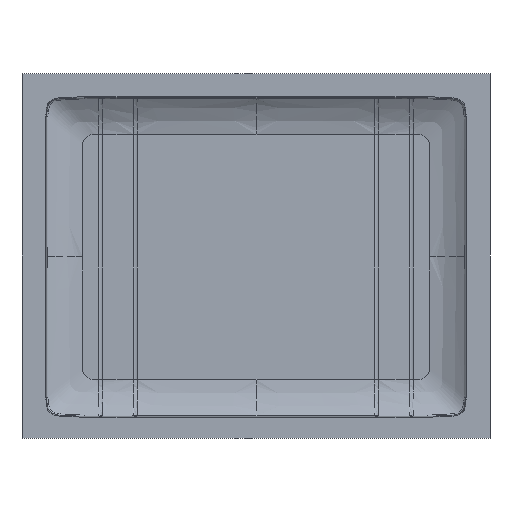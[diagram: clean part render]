
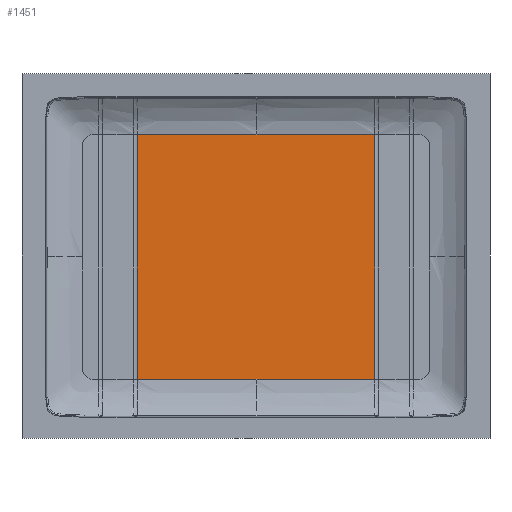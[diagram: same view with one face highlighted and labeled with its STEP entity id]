
A CAD part, front view. The second image highlights one B-rep face of the part: STEP entity #1451.
In plain terms, the highlighted planar face has unit normal (0, -1, 0).
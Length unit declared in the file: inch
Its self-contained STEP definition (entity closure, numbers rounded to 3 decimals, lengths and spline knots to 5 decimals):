
#207 = VERTEX_POINT ( 'NONE', #422 ) ;
#295 = CARTESIAN_POINT ( 'NONE',  ( -2.12392, 2.03, -6.29637 ) ) ;
#307 = CARTESIAN_POINT ( 'NONE',  ( 3.18257, 2.03, -6.29637 ) ) ;
#412 = VECTOR ( 'NONE', #9921, 39.37008 ) ;
#422 = CARTESIAN_POINT ( 'NONE',  ( 6.10459, 2.03, 6.29637 ) ) ;
#629 = CARTESIAN_POINT ( 'NONE',  ( -6.10459, 2.03, -6.29637 ) ) ;
#774 = CARTESIAN_POINT ( 'NONE',  ( 5.73254, 2.03, 6.29637 ) ) ;
#1066 = CARTESIAN_POINT ( 'NONE',  ( 0., 2.03, 6.29637 ) ) ;
#1192 = CARTESIAN_POINT ( 'NONE',  ( -0.35414, 2.03, -6.29637 ) ) ;
#1207 = CARTESIAN_POINT ( 'NONE',  ( 1.06254, 2.03, -6.29637 ) ) ;
#1393 = VERTEX_POINT ( 'NONE', #1066 ) ;
#1451 = ADVANCED_FACE ( 'NONE', ( #4064 ), #2432, .F. ) ;
#1650 = CARTESIAN_POINT ( 'NONE',  ( -5.73254, 2.03, 6.29637 ) ) ;
#1657 = CARTESIAN_POINT ( 'NONE',  ( 4.76146, 2.03, 6.29637 ) ) ;
#1798 = VECTOR ( 'NONE', #9784, 39.37008 ) ;
#2010 = CARTESIAN_POINT ( 'NONE',  ( -6.00534, 2.03, -6.29637 ) ) ;
#2050 = CARTESIAN_POINT ( 'NONE',  ( 0., 2.03, -6.29637 ) ) ;
#2372 = B_SPLINE_CURVE_WITH_KNOTS ( 'NONE', 3,
 ( #5291, #3677, #9406, #4504, #10239, #5321, #307, #6133, #1207, #6946, #2050 ),
 .UNSPECIFIED., .F., .F.,
 ( 4, 1, 1, 1, 1, 1, 1, 1, 4 ),
 ( 0.60685, 0.62631, 0.66028, 0.69425, 0.72822, 0.79617, 0.86411, 0.93206, 1. ),
 .UNSPECIFIED. ) ;
#2432 = PLANE ( 'NONE',  #4401 ) ;
#2481 = CARTESIAN_POINT ( 'NONE',  ( -4.76146, 2.03, 6.29637 ) ) ;
#2487 = CARTESIAN_POINT ( 'NONE',  ( 3.18257, 2.03, 6.29637 ) ) ;
#2745 = EDGE_CURVE ( 'NONE', #6468, #8630, #6409, .T. ) ;
#3120 = ORIENTED_EDGE ( 'NONE', *, *, #6685, .F. ) ;
#3200 = CARTESIAN_POINT ( 'NONE',  ( -6.10459, 2.03, 6.29637 ) ) ;
#3234 = CARTESIAN_POINT ( 'NONE',  ( -6.10459, 2.03, 6.29637 ) ) ;
#3251 = DIRECTION ( 'NONE',  ( 0., 0., 1. ) ) ;
#3272 = EDGE_CURVE ( 'NONE', #6094, #7480, #2372, .T. ) ;
#3308 = CARTESIAN_POINT ( 'NONE',  ( -3.18257, 2.03, 6.29637 ) ) ;
#3315 = CARTESIAN_POINT ( 'NONE',  ( 1.06254, 2.03, 6.29637 ) ) ;
#3342 = B_SPLINE_CURVE_WITH_KNOTS ( 'NONE', 3,
 ( #7744, #2010, #3662, #9394, #4491, #10229, #5309, #295, #6122, #1192, #6934 ),
 .UNSPECIFIED., .F., .F.,
 ( 4, 1, 1, 1, 1, 1, 1, 1, 4 ),
 ( 0.60685, 0.62631, 0.66028, 0.69425, 0.72822, 0.79617, 0.86411, 0.93206, 1. ),
 .UNSPECIFIED. ) ;
#3422 = B_SPLINE_CURVE_WITH_KNOTS ( 'NONE', 3,
 ( #3234, #10669, #1650, #7385, #2481, #8212, #3308, #9031, #4134, #9869, #4964 ),
 .UNSPECIFIED., .F., .F.,
 ( 4, 1, 1, 1, 1, 1, 1, 1, 4 ),
 ( 0.60685, 0.62631, 0.66028, 0.69425, 0.72822, 0.79617, 0.86411, 0.93206, 1. ),
 .UNSPECIFIED. ) ;
#3662 = CARTESIAN_POINT ( 'NONE',  ( -5.73254, 2.03, -6.29637 ) ) ;
#3677 = CARTESIAN_POINT ( 'NONE',  ( 6.00534, 2.03, -6.29637 ) ) ;
#4037 = EDGE_CURVE ( 'NONE', #6094, #207, #9483, .T. ) ;
#4064 = FACE_OUTER_BOUND ( 'NONE', #9955, .T. ) ;
#4134 = CARTESIAN_POINT ( 'NONE',  ( -1.06254, 2.03, 6.29637 ) ) ;
#4141 = CARTESIAN_POINT ( 'NONE',  ( 0., 2.03, 6.29637 ) ) ;
#4401 = AXIS2_PLACEMENT_3D ( 'NONE', #6510, #8164, #3251 ) ;
#4491 = CARTESIAN_POINT ( 'NONE',  ( -4.76146, 2.03, -6.29637 ) ) ;
#4504 = CARTESIAN_POINT ( 'NONE',  ( 5.28501, 2.03, -6.29637 ) ) ;
#4735 = CARTESIAN_POINT ( 'NONE',  ( 6.10459, 2.03, -6.29637 ) ) ;
#4934 = CARTESIAN_POINT ( 'NONE',  ( 6.10459, 2.03, 6.29637 ) ) ;
#4964 = CARTESIAN_POINT ( 'NONE',  ( 0., 2.03, 6.29637 ) ) ;
#5160 = EDGE_CURVE ( 'NONE', #207, #1393, #7393, .T. ) ;
#5177 = CARTESIAN_POINT ( 'NONE',  ( -6.10459, 2.03, -6.29637 ) ) ;
#5291 = CARTESIAN_POINT ( 'NONE',  ( 6.10459, 2.03, -6.29637 ) ) ;
#5309 = CARTESIAN_POINT ( 'NONE',  ( -3.18257, 2.03, -6.29637 ) ) ;
#5321 = CARTESIAN_POINT ( 'NONE',  ( 4.06129, 2.03, -6.29637 ) ) ;
#5431 = ORIENTED_EDGE ( 'NONE', *, *, #3272, .F. ) ;
#5599 = EDGE_CURVE ( 'NONE', #8630, #7480, #3342, .T. ) ;
#6094 = VERTEX_POINT ( 'NONE', #4735 ) ;
#6122 = CARTESIAN_POINT ( 'NONE',  ( -1.06254, 2.03, -6.29637 ) ) ;
#6133 = CARTESIAN_POINT ( 'NONE',  ( 2.12392, 2.03, -6.29637 ) ) ;
#6409 = LINE ( 'NONE', #629, #1798 ) ;
#6460 = ORIENTED_EDGE ( 'NONE', *, *, #5599, .T. ) ;
#6468 = VERTEX_POINT ( 'NONE', #3200 ) ;
#6510 = CARTESIAN_POINT ( 'NONE',  ( 0., 2.03, 0. ) ) ;
#6564 = CARTESIAN_POINT ( 'NONE',  ( 5.28501, 2.03, 6.29637 ) ) ;
#6685 = EDGE_CURVE ( 'NONE', #6468, #1393, #3422, .T. ) ;
#6934 = CARTESIAN_POINT ( 'NONE',  ( 0., 2.03, -6.29637 ) ) ;
#6946 = CARTESIAN_POINT ( 'NONE',  ( 0.35414, 2.03, -6.29637 ) ) ;
#7385 = CARTESIAN_POINT ( 'NONE',  ( -5.28501, 2.03, 6.29637 ) ) ;
#7393 = B_SPLINE_CURVE_WITH_KNOTS ( 'NONE', 3,
 ( #4934, #10676, #774, #6564, #1657, #7395, #2487, #8219, #3315, #9037, #4141 ),
 .UNSPECIFIED., .F., .F.,
 ( 4, 1, 1, 1, 1, 1, 1, 1, 4 ),
 ( 0.60685, 0.62631, 0.66028, 0.69425, 0.72822, 0.79617, 0.86411, 0.93206, 1. ),
 .UNSPECIFIED. ) ;
#7395 = CARTESIAN_POINT ( 'NONE',  ( 4.06129, 2.03, 6.29637 ) ) ;
#7441 = CARTESIAN_POINT ( 'NONE',  ( 0., 2.03, -6.29637 ) ) ;
#7480 = VERTEX_POINT ( 'NONE', #7441 ) ;
#7615 = ORIENTED_EDGE ( 'NONE', *, *, #4037, .T. ) ;
#7744 = CARTESIAN_POINT ( 'NONE',  ( -6.10459, 2.03, -6.29637 ) ) ;
#8164 = DIRECTION ( 'NONE',  ( 0., 1., 0. ) ) ;
#8212 = CARTESIAN_POINT ( 'NONE',  ( -4.06129, 2.03, 6.29637 ) ) ;
#8219 = CARTESIAN_POINT ( 'NONE',  ( 2.12392, 2.03, 6.29637 ) ) ;
#8630 = VERTEX_POINT ( 'NONE', #5177 ) ;
#8646 = ORIENTED_EDGE ( 'NONE', *, *, #2745, .T. ) ;
#9031 = CARTESIAN_POINT ( 'NONE',  ( -2.12392, 2.03, 6.29637 ) ) ;
#9037 = CARTESIAN_POINT ( 'NONE',  ( 0.35414, 2.03, 6.29637 ) ) ;
#9085 = CARTESIAN_POINT ( 'NONE',  ( 6.10459, 2.03, -6.29637 ) ) ;
#9394 = CARTESIAN_POINT ( 'NONE',  ( -5.28501, 2.03, -6.29637 ) ) ;
#9406 = CARTESIAN_POINT ( 'NONE',  ( 5.73254, 2.03, -6.29637 ) ) ;
#9483 = LINE ( 'NONE', #9085, #412 ) ;
#9784 = DIRECTION ( 'NONE',  ( 0., 0., -1. ) ) ;
#9814 = ORIENTED_EDGE ( 'NONE', *, *, #5160, .T. ) ;
#9869 = CARTESIAN_POINT ( 'NONE',  ( -0.35414, 2.03, 6.29637 ) ) ;
#9921 = DIRECTION ( 'NONE',  ( 0., 0., 1. ) ) ;
#9955 = EDGE_LOOP ( 'NONE', ( #3120, #8646, #6460, #5431, #7615, #9814 ) ) ;
#10229 = CARTESIAN_POINT ( 'NONE',  ( -4.06129, 2.03, -6.29637 ) ) ;
#10239 = CARTESIAN_POINT ( 'NONE',  ( 4.76146, 2.03, -6.29637 ) ) ;
#10669 = CARTESIAN_POINT ( 'NONE',  ( -6.00534, 2.03, 6.29637 ) ) ;
#10676 = CARTESIAN_POINT ( 'NONE',  ( 6.00534, 2.03, 6.29637 ) ) ;
